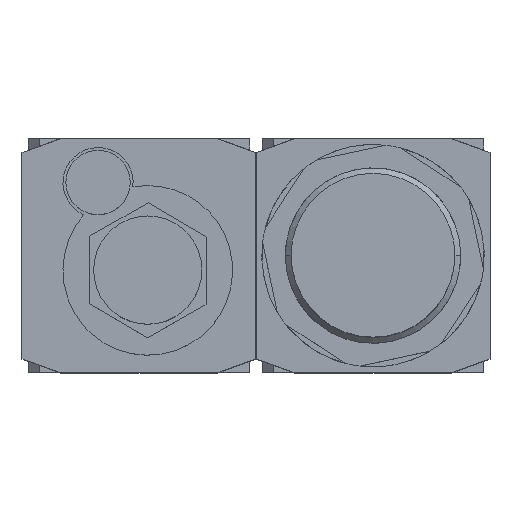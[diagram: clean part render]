
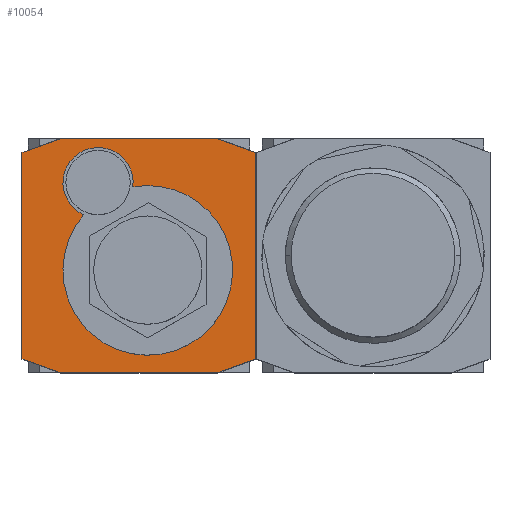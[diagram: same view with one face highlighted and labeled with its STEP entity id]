
A CAD part, top view. The second image highlights one B-rep face of the part: STEP entity #10054.
In plain terms, the highlighted planar face has unit normal (0, 0, 1).
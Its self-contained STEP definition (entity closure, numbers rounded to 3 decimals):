
#8973=CARTESIAN_POINT('',(-12.956,13.225,34.0));
#8974=VERTEX_POINT('',#8973);
#8983=CARTESIAN_POINT('',(-9.439,7.018,34.0));
#8984=VERTEX_POINT('',#8983);
#8985=CARTESIAN_POINT('',(-7.,12.5,34.0));
#8986=DIRECTION('',(0.0,0.0,-1.));
#8987=DIRECTION('',(-0.993,0.121,0.0));
#8988=AXIS2_PLACEMENT_3D('',#8985,#8986,#8987);
#8989=CIRCLE('',#8988,6.);
#8990=EDGE_CURVE('',#8984,#8974,#8989,.T.);
#9015=CARTESIAN_POINT('',(12.439,-12.018,34.0));
#9016=VERTEX_POINT('',#9015);
#9025=CARTESIAN_POINT('',(-1.044,11.775,34.0));
#9026=VERTEX_POINT('',#9025);
#9027=CARTESIAN_POINT('',(1.5,-2.5,34.0));
#9028=DIRECTION('',(0.0,0.0,-1.0));
#9029=DIRECTION('',(0.754,-0.656,0.0));
#9030=AXIS2_PLACEMENT_3D('',#9027,#9028,#9029);
#9031=CIRCLE('',#9030,14.5);
#9032=EDGE_CURVE('',#9026,#9016,#9031,.T.);
#9965=CARTESIAN_POINT('',(0.,0.,34.0));
#9966=DIRECTION('',(0.0,0.0,1.0));
#9967=DIRECTION('',(1.0,0.0,0.0));
#9968=AXIS2_PLACEMENT_3D('',#9965,#9966,#9967);
#9969=PLANE('',#9968);
#9970=CARTESIAN_POINT('',(-13.5,-20.0,34.0));
#9971=VERTEX_POINT('',#9970);
#9972=CARTESIAN_POINT('',(-20.0,-17.634,34.0));
#9973=VERTEX_POINT('',#9972);
#9974=CARTESIAN_POINT('',(-13.5,-20.0,34.0));
#9975=DIRECTION('',(-0.94,0.342,0.0));
#9976=VECTOR('',#9975,6.917);
#9977=LINE('',#9974,#9976);
#9978=EDGE_CURVE('',#9971,#9973,#9977,.T.);
#9979=ORIENTED_EDGE('',*,*,#9978,.F.);
#9980=CARTESIAN_POINT('',(13.5,-20.0,34.0));
#9981=VERTEX_POINT('',#9980);
#9982=CARTESIAN_POINT('',(13.5,-20.0,34.0));
#9983=DIRECTION('',(-1.0,0.0,0.0));
#9984=VECTOR('',#9983,27.);
#9985=LINE('',#9982,#9984);
#9986=EDGE_CURVE('',#9981,#9971,#9985,.T.);
#9987=ORIENTED_EDGE('',*,*,#9986,.F.);
#9988=CARTESIAN_POINT('',(20.0,-17.634,34.0));
#9989=VERTEX_POINT('',#9988);
#9990=CARTESIAN_POINT('',(20.0,-17.634,34.0));
#9991=DIRECTION('',(-0.94,-0.342,0.0));
#9992=VECTOR('',#9991,6.917);
#9993=LINE('',#9990,#9992);
#9994=EDGE_CURVE('',#9989,#9981,#9993,.T.);
#9995=ORIENTED_EDGE('',*,*,#9994,.F.);
#9996=CARTESIAN_POINT('',(20.0,17.634,34.0));
#9997=VERTEX_POINT('',#9996);
#9998=CARTESIAN_POINT('',(20.0,17.634,34.0));
#9999=DIRECTION('',(0.0,-1.0,0.0));
#10000=VECTOR('',#9999,35.268);
#10001=LINE('',#9998,#10000);
#10002=EDGE_CURVE('',#9997,#9989,#10001,.T.);
#10003=ORIENTED_EDGE('',*,*,#10002,.F.);
#10004=CARTESIAN_POINT('',(13.5,20.0,34.0));
#10005=VERTEX_POINT('',#10004);
#10006=CARTESIAN_POINT('',(13.5,20.0,34.0));
#10007=DIRECTION('',(0.94,-0.342,0.0));
#10008=VECTOR('',#10007,6.917);
#10009=LINE('',#10006,#10008);
#10010=EDGE_CURVE('',#10005,#9997,#10009,.T.);
#10011=ORIENTED_EDGE('',*,*,#10010,.F.);
#10012=CARTESIAN_POINT('',(-13.5,20.0,34.0));
#10013=VERTEX_POINT('',#10012);
#10014=CARTESIAN_POINT('',(-13.5,20.0,34.0));
#10015=DIRECTION('',(1.0,0.0,0.0));
#10016=VECTOR('',#10015,27.);
#10017=LINE('',#10014,#10016);
#10018=EDGE_CURVE('',#10013,#10005,#10017,.T.);
#10019=ORIENTED_EDGE('',*,*,#10018,.F.);
#10020=CARTESIAN_POINT('',(-20.0,17.634,34.0));
#10021=VERTEX_POINT('',#10020);
#10022=CARTESIAN_POINT('',(-20.0,17.634,34.0));
#10023=DIRECTION('',(0.94,0.342,0.0));
#10024=VECTOR('',#10023,6.917);
#10025=LINE('',#10022,#10024);
#10026=EDGE_CURVE('',#10021,#10013,#10025,.T.);
#10027=ORIENTED_EDGE('',*,*,#10026,.F.);
#10028=CARTESIAN_POINT('',(-20.0,-17.634,34.0));
#10029=DIRECTION('',(0.0,1.0,0.0));
#10030=VECTOR('',#10029,35.268);
#10031=LINE('',#10028,#10030);
#10032=EDGE_CURVE('',#9973,#10021,#10031,.T.);
#10033=ORIENTED_EDGE('',*,*,#10032,.F.);
#10034=EDGE_LOOP('',(#9979,#9987,#9995,#10003,#10011,#10019,#10027,#10033));
#10035=FACE_OUTER_BOUND('',#10034,.T.);
#10036=ORIENTED_EDGE('',*,*,#8990,.T.);
#10037=CARTESIAN_POINT('',(-7.,12.5,34.0));
#10038=DIRECTION('',(0.0,0.0,-1.));
#10039=DIRECTION('',(-0.993,0.121,0.0));
#10040=AXIS2_PLACEMENT_3D('',#10037,#10038,#10039);
#10041=CIRCLE('',#10040,6.);
#10042=EDGE_CURVE('',#8974,#9026,#10041,.T.);
#10043=ORIENTED_EDGE('',*,*,#10042,.T.);
#10044=ORIENTED_EDGE('',*,*,#9032,.T.);
#10045=CARTESIAN_POINT('',(1.5,-2.5,34.0));
#10046=DIRECTION('',(0.0,0.0,-1.0));
#10047=DIRECTION('',(0.754,-0.656,0.0));
#10048=AXIS2_PLACEMENT_3D('',#10045,#10046,#10047);
#10049=CIRCLE('',#10048,14.5);
#10050=EDGE_CURVE('',#9016,#8984,#10049,.T.);
#10051=ORIENTED_EDGE('',*,*,#10050,.T.);
#10052=EDGE_LOOP('',(#10036,#10043,#10044,#10051));
#10053=FACE_BOUND('',#10052,.T.);
#10054=ADVANCED_FACE('',(#10035,#10053),#9969,.T.);
